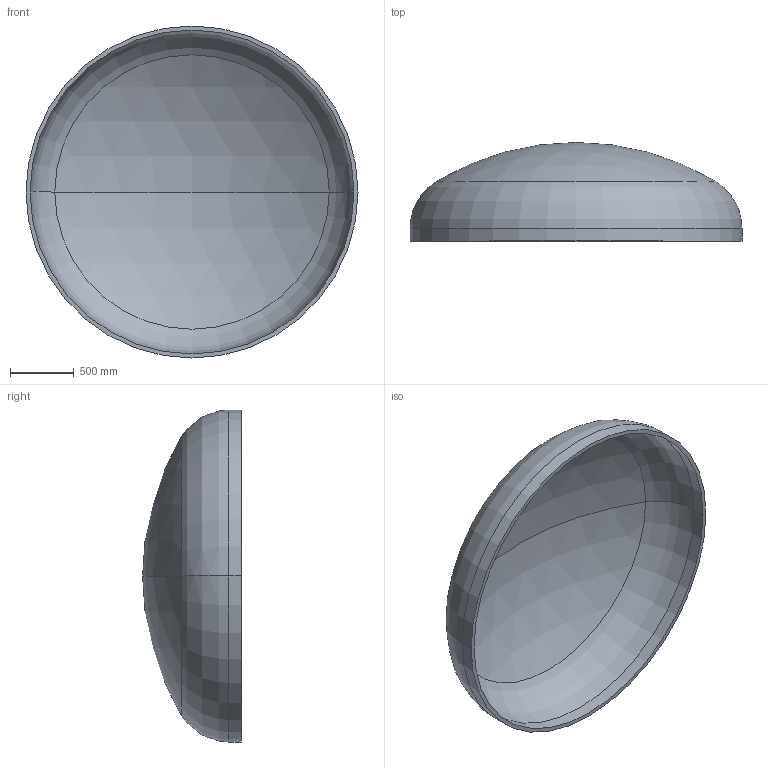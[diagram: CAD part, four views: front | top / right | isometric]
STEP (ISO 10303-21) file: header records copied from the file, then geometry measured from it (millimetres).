
FILE_DESCRIPTION (( 'STEP AP203' ), '1' );
FILE_NAME ('DIN 28013 Korbbogenform_-_Boden DIN 28013 - 2600 x 100 - I - s=32.step', '2016-07-01T16:05:56', ( '' ), ( '' ), 'SwSTEP 2.0', 'SolidWorks 2013', '' );
FILE_SCHEMA (( 'CONFIG_CONTROL_DESIGN' ));
Length unit declared in the file: millimetre
Products named in the file (1): DIN 28013 Korbbogenform_-_Boden DIN 28013 - 2600 x 100 - I - s=32
Bounding box: 2600 x 773.61 x 2600 mm (x, y, z)
Volume: 257278441.5 mm3; surface area: 16340205 mm2
Topology: 1 solids, 1 shells, 13 faces, 24 edges, 14 vertices
Faces by surface type: torus 4, cylinder 4, sphere 4, plane 1
Entity records: 407 total; most frequent: DIRECTION 72, CARTESIAN_POINT 52, ORIENTED_EDGE 48, AXIS2_PLACEMENT_3D 34, EDGE_CURVE 24, CIRCLE 20, EDGE_LOOP 14, VERTEX_POINT 14
